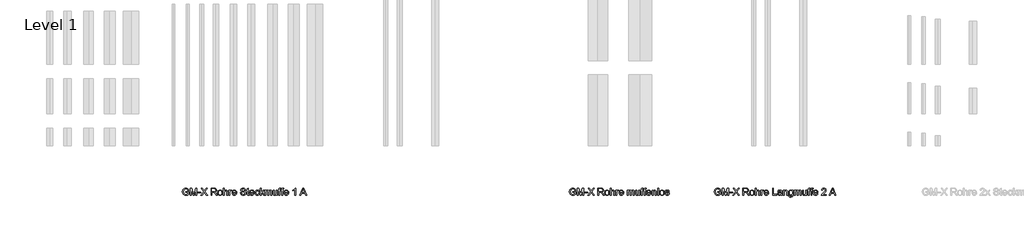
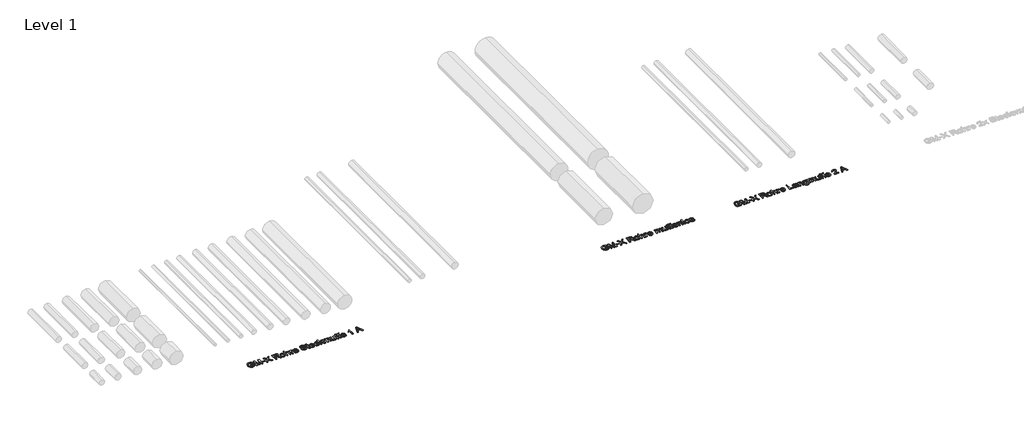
# One storey, part 6 of 7: 3 proxies.
"""IFC4 building model written with IfcOpenShell, lengths in millimetres."""

from ifc_helpers import new_model, si_unit, origin, origin_with_axes, place, context, project, spatial, polyline, outline, extrude, element, save

model = new_model("IFC4")

# Units and contexts
model_context = context("Model", 3, world=origin())
ifc_project = project(units=[si_unit("LENGTHUNIT", "METRE", prefix="MILLI")], contexts=[model_context])

# Site, building, storey
site = spatial("IfcSite", under=ifc_project)
building = spatial("IfcBuilding", under=site)
storey = spatial("IfcBuildingStorey", under=building, Name="Level 1", Elevation=0.0)

# Proxies
placement = place(None, origin())
element("IfcBuildingElementProxy", 1, Name="100mm ACO", ObjectType="100mm ACO", at=placement, inside=storey, context=model_context, shape_type="SweptSolid", body=[
    extrude(outline(polyline([(3317.5925926, -686.6608796), (3298.1843171, -698.0541088), (3277.0543981, -701.8518519), (3256.6731771, -698.3362269), (3240.6684028, -687.7893519), (3230.3059896, -671.412037), (3226.8518519, -650.4050926), (3232.4797454, -623.900463), (3239.4422743, -613.0135995), (3249.0740741, -604.8900463), (3261.2630208, -599.8336227), (3275.8969907, -598.1481481), (3290.7335069, -600.0217014), (3302.3148148, -605.6423611), (3310.6481481, -615.0028935), (3315.7407407, -628.0960648), (3302.7777778, -631.4814815), (3299.0198206, -621.7773437), (3293.1278935, -614.8292824), (3285.1019965, -610.651765), (3274.9421296, -609.2592593), (3259.6824363, -612.0659722), (3248.6834491, -620.4861111), (3242.0319734, -633.4490741), (3239.8148148, -649.8842593), (3244.1984954, -672.4971065), (3257.2048611, -686.1255787), (3275.9548611, -690.7407407), (3290.8203125, -687.9340278), (3304.6296296, -679.5138889), (3304.6296296, -659.2592593), (3275.0, -659.2592593), (3275.0, -648.1481481), (3317.5925926, -648.1481481), (3317.5925926, -686.6608796)])), origin_with_axes(), (0.0, 0.0, 1.0), 10.0),
    extrude(outline(polyline([(3430.5555556, -700.0), (3417.5925926, -700.0), (3417.5925926, -616.2037037), (3392.0717593, -700.0), (3378.2986111, -700.0), (3351.3020833, -614.84375), (3350.9259259, -700.0), (3337.962963, -700.0), (3337.962963, -600.0), (3357.6678241, -600.0), (3380.4976852, -670.8622685), (3384.9247685, -685.6770833), (3389.9305556, -669.6469907), (3411.2847222, -600.0), (3430.5555556, -600.0), (3430.5555556, -700.0)])), origin_with_axes(), (0.0, 0.0, 1.0), 10.0),
    extrude(outline(polyline([(3484.2592593, -666.6666667), (3445.3703704, -666.6666667), (3445.3703704, -657.4074074), (3484.2592593, -657.4074074), (3484.2592593, -666.6666667)])), origin_with_axes(), (0.0, 0.0, 1.0), 10.0),
    extrude(outline(polyline([(3580.5555556, -700.0), (3564.9305556, -700.0), (3544.0104167, -671.4699074), (3534.9537037, -658.7384259), (3503.7615741, -700.0), (3487.962963, -700.0), (3526.9097222, -648.0902778), (3491.6666667, -600.0), (3507.2916667, -600.0), (3529.5717593, -630.4108796), (3534.7800926, -637.5578704), (3562.9340278, -600.0), (3578.7037037, -600.0), (3542.5925926, -648.1770833), (3580.5555556, -700.0)])), origin_with_axes(), (0.0, 0.0, 1.0), 10.0),
    extrude(outline(polyline([(3718.0555556, -700.0), (3703.0671296, -700.0), (3684.302662, -670.1388889), (3676.5335648, -661.009838), (3668.8078704, -656.4959491), (3659.2303241, -655.5555556), (3643.5185185, -655.5555556), (3643.5185185, -700.0), (3630.5555556, -700.0), (3630.5555556, -600.0), (3674.681713, -600.0), (3689.8582176, -601.1429398), (3700.5931713, -605.9461806), (3707.6967593, -615.1765046), (3710.1851852, -626.9097222), (3708.3695023, -636.9610822), (3702.9224537, -644.8350694), (3694.0538194, -650.3797743), (3681.9733796, -653.443287), (3691.6304977, -660.9302662), (3700.6944444, -672.5983796), (3718.0555556, -700.0)]), holes=[polyline([(3643.5185185, -644.4444444), (3672.2800926, -644.4444444), (3686.0677083, -642.96875), (3694.1840278, -637.2251157), (3697.2222222, -627.6331019), (3692.1730324, -615.9288194), (3685.4853877, -612.3155382), (3675.5208333, -611.1111111), (3643.5185185, -611.1111111), (3643.5185185, -644.4444444)])]), origin_with_axes(), (0.0, 0.0, 1.0), 10.0),
    extrude(outline(polyline([(3758.3043981, -625.9259259), (3771.4807581, -628.3203125), (3782.1903935, -635.5034722), (3789.2975984, -647.0992477), (3791.6666667, -662.7314815), (3789.1022859, -681.0040509), (3781.4091435, -692.9976852), (3770.5041956, -699.6383102), (3758.3043981, -701.8518519), (3745.7139757, -699.5768229), (3734.9103009, -692.7517361), (3727.4775752, -680.9859664), (3725.0, -663.8888889), (3727.3943866, -647.1715856), (3734.5775463, -635.3298611), (3745.2980324, -628.2769097), (3758.3043981, -625.9259259)]), holes=[polyline([(3758.3043981, -692.5925926), (3767.1115451, -690.5852141), (3773.509838, -684.5630787), (3778.7037037, -663.4259259), (3777.2352431, -651.1429398), (3772.8298611, -642.3032407), (3766.2615741, -636.9646991), (3758.3043981, -635.1851852), (3750.1916956, -636.9900174), (3743.677662, -642.4045139), (3739.3916377, -651.3925058), (3737.962963, -663.9178241), (3739.416956, -676.3997396), (3743.7789352, -685.3732639), (3750.318287, -690.7877604), (3758.3043981, -692.5925926)])]), origin_with_axes(), (0.0, 0.0, 1.0), 10.0),
    extrude(outline(polyline([(3865.7407407, -700.0), (3852.7777778, -700.0), (3852.7777778, -653.2986111), (3849.0885417, -639.7135417), (3838.0787037, -635.1851852), (3825.1446759, -640.5237269), (3820.8695023, -647.9564525), (3819.4444444, -659.5775463), (3819.4444444, -700.0), (3806.4814815, -700.0), (3806.4814815, -600.0), (3819.4444444, -600.0), (3819.4444444, -635.8217593), (3829.1449653, -628.3998843), (3841.0011574, -625.9259259), (3854.2824074, -628.7905093), (3863.1799769, -637.6012731), (3865.7407407, -654.1087963), (3865.7407407, -700.0)])), origin_with_axes(), (0.0, 0.0, 1.0), 10.0),
    extrude(outline(polyline([(3923.1481481, -628.7615741), (3919.0972222, -637.037037), (3910.5902778, -635.1851852), (3904.7960069, -636.8127894), (3900.6076389, -641.6956019), (3897.2222222, -659.9247685), (3897.2222222, -700.0), (3884.2592593, -700.0), (3884.2592593, -627.7777778), (3895.3703704, -627.7777778), (3895.3703704, -638.4837963), (3902.3003472, -629.0653935), (3910.7349537, -625.9259259), (3923.1481481, -628.7615741)])), origin_with_axes(), (0.0, 0.0, 1.0), 10.0),
    extrude(outline(polyline([(3993.5185185, -666.6666667), (3939.8148148, -666.6666667), (3941.8872975, -677.7922454), (3946.6001157, -685.9375), (3953.3817998, -690.9288194), (3961.6608796, -692.5925926), (3973.3362269, -688.9033565), (3980.5555556, -677.7777778), (3993.5185185, -679.2824074), (3989.1420718, -688.9033565), (3982.2048611, -696.0069444), (3972.9600694, -700.390625), (3961.6608796, -701.8518519), (3947.0739294, -699.3453414), (3936.0677083, -691.8258102), (3929.155816, -679.9660012), (3926.8518519, -664.4386574), (3929.0726273, -648.900463), (3935.7349537, -636.6030093), (3946.4337384, -628.5951968), (3960.7638889, -625.9259259), (3975.9837963, -629.3836806), (3988.4114583, -641.1603009), (3992.2417535, -651.6963252), (3993.5185185, -666.6666667)]), holes=[polyline([(3980.5555556, -657.4074074), (3978.4722222, -647.2511574), (3973.7268519, -640.3935185), (3960.4456019, -635.1851852), (3952.5896991, -636.7332176), (3946.2673611, -641.3773148), (3939.8148148, -657.4074074), (3980.5555556, -657.4074074)])]), origin_with_axes(), (0.0, 0.0, 1.0), 10.0),
    extrude(outline(polyline([(4106.4814815, -629.6296296), (4104.4704861, -620.7356771), (4100.0, -614.3663194), (4083.6805556, -609.2592593), (4068.0555556, -613.2378472), (4063.5416667, -618.1242766), (4062.037037, -624.8263889), (4066.5075231, -634.8813657), (4084.693287, -641.1747685), (4104.5283565, -646.6579861), (4117.6793981, -655.5844907), (4121.7809606, -662.6663773), (4123.1481481, -671.8171296), (4120.6416377, -683.6552373), (4113.1221065, -693.3015046), (4101.5733507, -699.714265), (4086.9791667, -701.8518519), (4068.9959491, -699.4791667), (4056.1921296, -692.3611111), (4048.3796296, -681.4670139), (4045.3703704, -667.7662037), (4058.3333333, -666.6666667), (4060.9628183, -677.5426794), (4067.1730324, -684.9971065), (4076.0091146, -689.3048322), (4086.5162037, -690.7407407), (4103.6458333, -686.009838), (4108.5503472, -680.4361979), (4110.1851852, -673.1770833), (4108.4960938, -665.8492477), (4103.4288194, -660.8217593), (4080.150463, -653.3709491), (4065.9396701, -649.0306713), (4056.3512731, -643.1568287), (4050.8933738, -635.5287905), (4049.0740741, -625.9259259), (4051.3563368, -614.9305556), (4058.203125, -606.0185185), (4068.9850984, -600.1157407), (4083.0729167, -598.1481481), (4097.6345486, -600.1302083), (4109.0277778, -606.0763889), (4116.5364583, -615.6684028), (4119.4444444, -628.587963), (4106.4814815, -629.6296296)])), origin_with_axes(), (0.0, 0.0, 1.0), 10.0),
    extrude(outline(polyline([(4167.5925926, -701.0127315), (4158.5069444, -701.8518519), (4146.9184028, -698.9728009), (4142.4768519, -691.6666667), (4141.6666667, -679.3402778), (4141.6666667, -637.037037), (4132.4074074, -637.037037), (4132.4074074, -627.7777778), (4141.6666667, -627.7777778), (4141.6666667, -609.4328704), (4154.6296296, -601.8518519), (4154.6296296, -627.7777778), (4165.7407407, -627.7777778), (4165.7407407, -637.037037), (4154.6296296, -637.037037), (4154.6296296, -681.9444444), (4155.6712963, -690.162037), (4160.9664352, -692.5925926), (4166.0011574, -692.5925926), (4167.5925926, -701.0127315)])), origin_with_axes(), (0.0, 0.0, 1.0), 10.0),
    extrude(outline(polyline([(4241.6666667, -666.6666667), (4187.962963, -666.6666667), (4190.0354456, -677.7922454), (4194.7482639, -685.9375), (4201.5299479, -690.9288194), (4209.8090278, -692.5925926), (4221.484375, -688.9033565), (4228.7037037, -677.7777778), (4241.6666667, -679.2824074), (4237.2902199, -688.9033565), (4230.3530093, -696.0069444), (4221.1082176, -700.390625), (4209.8090278, -701.8518519), (4195.2220775, -699.3453414), (4184.2158565, -691.8258102), (4177.3039641, -679.9660012), (4175.0, -664.4386574), (4177.2207755, -648.900463), (4183.8831019, -636.6030093), (4194.5818866, -628.5951968), (4208.912037, -625.9259259), (4224.1319444, -629.3836806), (4236.5596065, -641.1603009), (4240.3899016, -651.6963252), (4241.6666667, -666.6666667)]), holes=[polyline([(4228.7037037, -657.4074074), (4226.6203704, -647.2511574), (4221.875, -640.3935185), (4208.59375, -635.1851852), (4200.7378472, -636.7332176), (4194.4155093, -641.3773148), (4187.962963, -657.4074074), (4228.7037037, -657.4074074)])]), origin_with_axes(), (0.0, 0.0, 1.0), 10.0),
    extrude(outline(polyline([(4317.5925926, -675.5497685), (4313.5633681, -687.3553241), (4306.3946759, -695.5150463), (4297.0703125, -700.2676505), (4286.5740741, -701.8518519), (4272.2583912, -699.2621528), (4261.6030093, -691.4930556), (4254.9840856, -679.4487847), (4252.7777778, -664.0335648), (4257.8125, -641.3483796), (4270.4137731, -629.3836806), (4286.3136574, -625.9259259), (4305.7725694, -631.5827546), (4312.3083044, -638.566985), (4315.7407407, -648.2060185), (4302.7777778, -650.0), (4296.875, -638.9033565), (4286.4583333, -635.1851852), (4277.5028935, -637.0695891), (4271.0069444, -642.7228009), (4267.0572917, -651.7541956), (4265.7407407, -663.7731481), (4267.0609086, -676.0018808), (4271.021412, -685.083912), (4277.4703414, -690.7154225), (4286.255787, -692.5925926), (4298.8570602, -687.962963), (4304.6296296, -674.0740741), (4317.5925926, -675.5497685)])), origin_with_axes(), (0.0, 0.0, 1.0), 10.0),
    extrude(outline(polyline([(4386.1111111, -700.0), (4373.2349537, -700.0), (4347.1354167, -662.037037), (4337.962963, -670.3703704), (4337.962963, -700.0), (4325.0, -700.0), (4325.0, -600.0), (4337.962963, -600.0), (4337.962963, -655.9895833), (4368.9525463, -627.7777778), (4384.7222222, -627.7777778), (4355.0347222, -654.8032407), (4386.1111111, -700.0)])), origin_with_axes(), (0.0, 0.0, 1.0), 10.0),
    extrude(outline(polyline([(4489.8148148, -700.0), (4476.8518519, -700.0), (4476.8518519, -653.2986111), (4476.2008102, -644.4878472), (4472.8153935, -638.0063657), (4464.2939815, -635.1851852), (4452.2858796, -640.3356481), (4448.4881366, -647.0920139), (4447.2222222, -657.0601852), (4447.2222222, -700.0), (4434.2592593, -700.0), (4434.2592593, -651.9097222), (4431.0763889, -638.744213), (4422.0486111, -635.1851852), (4409.5196759, -640.7552083), (4405.8521412, -648.7521701), (4404.6296296, -661.6030093), (4404.6296296, -700.0), (4391.6666667, -700.0), (4391.6666667, -627.7777778), (4402.7777778, -627.7777778), (4402.7777778, -637.6736111), (4412.1600116, -628.8628472), (4424.7106481, -625.9259259), (4437.890625, -629.0943287), (4445.3703704, -638.6284722), (4454.8900463, -629.1015625), (4467.4768519, -625.9259259), (4477.2497106, -627.4450231), (4484.2303241, -632.0023148), (4488.4186921, -639.5978009), (4489.8148148, -650.2314815), (4489.8148148, -700.0)])), origin_with_axes(), (0.0, 0.0, 1.0), 10.0),
    extrude(outline(polyline([(4567.5925926, -700.0), (4556.4814815, -700.0), (4556.4814815, -689.4965278), (4546.2384259, -698.7630208), (4533.275463, -701.8518519), (4519.1550926, -698.3362269), (4510.5034722, -688.6574074), (4508.3333333, -672.65625), (4508.3333333, -627.7777778), (4521.2962963, -627.7777778), (4521.2962963, -668.75), (4522.193287, -682.8414352), (4526.880787, -689.84375), (4535.9085648, -692.5925926), (4548.6545139, -687.6736111), (4553.1358507, -680.1215278), (4554.6296296, -667.3032407), (4554.6296296, -627.7777778), (4567.5925926, -627.7777778), (4567.5925926, -700.0)])), origin_with_axes(), (0.0, 0.0, 1.0), 10.0),
    extrude(outline(polyline([(4619.4444444, -599.1030093), (4617.8530093, -607.4074074), (4611.5451389, -607.4074074), (4605.2372685, -609.5341435), (4602.7777778, -620.0520833), (4602.7777778, -627.7777778), (4613.8888889, -627.7777778), (4613.8888889, -637.037037), (4602.7777778, -637.037037), (4602.7777778, -700.0), (4589.8148148, -700.0), (4589.8148148, -637.037037), (4578.7037037, -637.037037), (4578.7037037, -627.7777778), (4589.8148148, -627.7777778), (4589.8148148, -619.849537), (4590.7841435, -609.8668981), (4595.8912037, -601.7650463), (4608.6516204, -598.1481481), (4619.4444444, -599.1030093)])), origin_with_axes(), (0.0, 0.0, 1.0), 10.0),
    extrude(outline(polyline([(4658.3333333, -599.1030093), (4656.7418981, -607.4074074), (4650.4340278, -607.4074074), (4644.1261574, -609.5341435), (4641.6666667, -620.0520833), (4641.6666667, -627.7777778), (4652.7777778, -627.7777778), (4652.7777778, -637.037037), (4641.6666667, -637.037037), (4641.6666667, -700.0), (4628.7037037, -700.0), (4628.7037037, -637.037037), (4617.5925926, -637.037037), (4617.5925926, -627.7777778), (4628.7037037, -627.7777778), (4628.7037037, -619.849537), (4629.6730324, -609.8668981), (4634.7800926, -601.7650463), (4647.5405093, -598.1481481), (4658.3333333, -599.1030093)])), origin_with_axes(), (0.0, 0.0, 1.0), 10.0),
    extrude(outline(polyline([(4726.8518519, -666.6666667), (4673.1481481, -666.6666667), (4675.2206308, -677.7922454), (4679.9334491, -685.9375), (4686.7151331, -690.9288194), (4694.994213, -692.5925926), (4706.6695602, -688.9033565), (4713.8888889, -677.7777778), (4726.8518519, -679.2824074), (4722.4754051, -688.9033565), (4715.5381944, -696.0069444), (4706.2934028, -700.390625), (4694.994213, -701.8518519), (4680.4072627, -699.3453414), (4669.4010417, -691.8258102), (4662.4891493, -679.9660012), (4660.1851852, -664.4386574), (4662.4059606, -648.900463), (4669.068287, -636.6030093), (4679.7670718, -628.5951968), (4694.0972222, -625.9259259), (4709.3171296, -629.3836806), (4721.7447917, -641.1603009), (4725.5750868, -651.6963252), (4726.8518519, -666.6666667)]), holes=[polyline([(4713.8888889, -657.4074074), (4711.8055556, -647.2511574), (4707.0601852, -640.3935185), (4693.7789352, -635.1851852), (4685.9230324, -636.7332176), (4679.6006944, -641.3773148), (4673.1481481, -657.4074074), (4713.8888889, -657.4074074)])]), origin_with_axes(), (0.0, 0.0, 1.0), 10.0),
    extrude(outline(polyline([(4825.0, -700.0), (4812.037037, -700.0), (4812.037037, -622.2222222), (4787.962963, -637.037037), (4787.962963, -627.7777778), (4806.2355324, -616.0590278), (4817.5925926, -601.8518519), (4825.0, -601.8518519), (4825.0, -700.0)])), origin_with_axes(), (0.0, 0.0, 1.0), 10.0),
    extrude(outline(polyline([(4981.0185185, -700.0), (4967.2164352, -700.0), (4955.2372685, -670.3703704), (4912.7893519, -670.3703704), (4901.2731481, -700.0), (4887.5, -700.0), (4926.3599537, -600.0), (4940.5381944, -600.0), (4981.0185185, -700.0)]), holes=[polyline([(4950.7233796, -659.2592593), (4936.2991898, -622.5983796), (4933.3333333, -610.9375), (4928.6747685, -629.5138889), (4917.1296296, -659.2592593), (4950.7233796, -659.2592593)])]), origin_with_axes(), (0.0, 0.0, 1.0), 10.0),
])
element("IfcBuildingElementProxy", 2, Name="100mm ACO", ObjectType="100mm ACO", at=placement, inside=storey, context=model_context, shape_type="SweptSolid", body=[
    extrude(outline(polyline([(8787.037037, -686.6608796), (8767.6287616, -698.0541088), (8746.4988426, -701.8518519), (8726.1176215, -698.3362269), (8710.1128472, -687.7893519), (8699.750434, -671.412037), (8696.2962963, -650.4050926), (8701.9241898, -623.900463), (8708.8867188, -613.0135995), (8718.5185185, -604.8900463), (8730.7074653, -599.8336227), (8745.3414352, -598.1481481), (8760.1779514, -600.0217014), (8771.7592593, -605.6423611), (8780.0925926, -615.0028935), (8785.1851852, -628.0960648), (8772.2222222, -631.4814815), (8768.464265, -621.7773438), (8762.572338, -614.8292824), (8754.546441, -610.651765), (8744.3865741, -609.2592593), (8729.1268808, -612.0659722), (8718.1278935, -620.4861111), (8711.4764178, -633.4490741), (8709.2592593, -649.8842593), (8713.6429398, -672.4971065), (8726.6493056, -686.1255787), (8745.3993056, -690.7407407), (8760.2647569, -687.9340278), (8774.0740741, -679.5138889), (8774.0740741, -659.2592593), (8744.4444444, -659.2592593), (8744.4444444, -648.1481481), (8787.037037, -648.1481481), (8787.037037, -686.6608796)])), origin_with_axes(), (0.0, 0.0, 1.0), 10.0),
    extrude(outline(polyline([(8900.0, -700.0), (8887.037037, -700.0), (8887.037037, -616.2037037), (8861.5162037, -700.0), (8847.7430556, -700.0), (8820.7465278, -614.84375), (8820.3703704, -700.0), (8807.4074074, -700.0), (8807.4074074, -600.0), (8827.1122685, -600.0), (8849.9421296, -670.8622685), (8854.369213, -685.6770833), (8859.375, -669.6469907), (8880.7291667, -600.0), (8900.0, -600.0), (8900.0, -700.0)])), origin_with_axes(), (0.0, 0.0, 1.0), 10.0),
    extrude(outline(polyline([(8953.7037037, -666.6666667), (8914.8148148, -666.6666667), (8914.8148148, -657.4074074), (8953.7037037, -657.4074074), (8953.7037037, -666.6666667)])), origin_with_axes(), (0.0, 0.0, 1.0), 10.0),
    extrude(outline(polyline([(9050.0, -700.0), (9034.375, -700.0), (9013.4548611, -671.4699074), (9004.3981481, -658.7384259), (8973.2060185, -700.0), (8957.4074074, -700.0), (8996.3541667, -648.0902778), (8961.1111111, -600.0), (8976.7361111, -600.0), (8999.0162037, -630.4108796), (9004.224537, -637.5578704), (9032.3784722, -600.0), (9048.1481481, -600.0), (9012.037037, -648.1770833), (9050.0, -700.0)])), origin_with_axes(), (0.0, 0.0, 1.0), 10.0),
    extrude(outline(polyline([(9187.5, -700.0), (9172.5115741, -700.0), (9153.7471065, -670.1388889), (9145.9780093, -661.009838), (9138.2523148, -656.4959491), (9128.6747685, -655.5555556), (9112.962963, -655.5555556), (9112.962963, -700.0), (9100.0, -700.0), (9100.0, -600.0), (9144.1261574, -600.0), (9159.302662, -601.1429398), (9170.0376157, -605.9461806), (9177.1412037, -615.1765046), (9179.6296296, -626.9097222), (9177.8139468, -636.9610822), (9172.3668981, -644.8350694), (9163.4982639, -650.3797743), (9151.4178241, -653.443287), (9161.0749421, -660.9302662), (9170.1388889, -672.5983796), (9187.5, -700.0)]), holes=[polyline([(9112.962963, -644.4444444), (9141.724537, -644.4444444), (9155.5121528, -642.96875), (9163.6284722, -637.2251157), (9166.6666667, -627.6331019), (9161.6174769, -615.9288194), (9154.9298322, -612.3155382), (9144.9652778, -611.1111111), (9112.962963, -611.1111111), (9112.962963, -644.4444444)])]), origin_with_axes(), (0.0, 0.0, 1.0), 10.0),
    extrude(outline(polyline([(9227.7488426, -625.9259259), (9240.9252025, -628.3203125), (9251.634838, -635.5034722), (9258.7420428, -647.0992477), (9261.1111111, -662.7314815), (9258.5467303, -681.0040509), (9250.853588, -692.9976852), (9239.94864, -699.6383102), (9227.7488426, -701.8518519), (9215.1584201, -699.5768229), (9204.3547454, -692.7517361), (9196.9220197, -680.9859664), (9194.4444444, -663.8888889), (9196.838831, -647.1715856), (9204.0219907, -635.3298611), (9214.7424769, -628.2769097), (9227.7488426, -625.9259259)]), holes=[polyline([(9227.7488426, -692.5925926), (9236.5559896, -690.5852141), (9242.9542824, -684.5630787), (9248.1481481, -663.4259259), (9246.6796875, -651.1429398), (9242.2743056, -642.3032407), (9235.7060185, -636.9646991), (9227.7488426, -635.1851852), (9219.63614, -636.9900174), (9213.1221065, -642.4045139), (9208.8360822, -651.3925058), (9207.4074074, -663.9178241), (9208.8614005, -676.3997396), (9213.2233796, -685.3732639), (9219.7627315, -690.7877604), (9227.7488426, -692.5925926)])]), origin_with_axes(), (0.0, 0.0, 1.0), 10.0),
    extrude(outline(polyline([(9335.1851852, -700.0), (9322.2222222, -700.0), (9322.2222222, -653.2986111), (9318.5329861, -639.7135417), (9307.5231481, -635.1851852), (9294.5891204, -640.5237269), (9290.3139468, -647.9564525), (9288.8888889, -659.5775463), (9288.8888889, -700.0), (9275.9259259, -700.0), (9275.9259259, -600.0), (9288.8888889, -600.0), (9288.8888889, -635.8217593), (9298.5894097, -628.3998843), (9310.4456019, -625.9259259), (9323.7268519, -628.7905093), (9332.6244213, -637.6012731), (9335.1851852, -654.1087963), (9335.1851852, -700.0)])), origin_with_axes(), (0.0, 0.0, 1.0), 10.0),
    extrude(outline(polyline([(9392.5925926, -628.7615741), (9388.5416667, -637.037037), (9380.0347222, -635.1851852), (9374.2404514, -636.8127894), (9370.0520833, -641.6956019), (9366.6666667, -659.9247685), (9366.6666667, -700.0), (9353.7037037, -700.0), (9353.7037037, -627.7777778), (9364.8148148, -627.7777778), (9364.8148148, -638.4837963), (9371.7447917, -629.0653935), (9380.1793981, -625.9259259), (9392.5925926, -628.7615741)])), origin_with_axes(), (0.0, 0.0, 1.0), 10.0),
    extrude(outline(polyline([(9462.962963, -666.6666667), (9409.2592593, -666.6666667), (9411.3317419, -677.7922454), (9416.0445602, -685.9375), (9422.8262442, -690.9288194), (9431.1053241, -692.5925926), (9442.7806713, -688.9033565), (9450.0, -677.7777778), (9462.962963, -679.2824074), (9458.5865162, -688.9033565), (9451.6493056, -696.0069444), (9442.4045139, -700.390625), (9431.1053241, -701.8518519), (9416.5183738, -699.3453414), (9405.5121528, -691.8258102), (9398.6002604, -679.9660012), (9396.2962963, -664.4386574), (9398.5170718, -648.900463), (9405.1793981, -636.6030093), (9415.8781829, -628.5951968), (9430.2083333, -625.9259259), (9445.4282407, -629.3836806), (9457.8559028, -641.1603009), (9461.6861979, -651.6963252), (9462.962963, -666.6666667)]), holes=[polyline([(9450.0, -657.4074074), (9447.9166667, -647.2511574), (9443.1712963, -640.3935185), (9429.8900463, -635.1851852), (9422.0341435, -636.7332176), (9415.7118056, -641.3773148), (9409.2592593, -657.4074074), (9450.0, -657.4074074)])]), origin_with_axes(), (0.0, 0.0, 1.0), 10.0),
    extrude(outline(polyline([(9612.962963, -700.0), (9600.0, -700.0), (9600.0, -653.2986111), (9599.3489583, -644.4878472), (9595.9635417, -638.0063657), (9587.4421296, -635.1851852), (9575.4340278, -640.3356481), (9571.6362847, -647.0920139), (9570.3703704, -657.0601852), (9570.3703704, -700.0), (9557.4074074, -700.0), (9557.4074074, -651.9097222), (9554.224537, -638.744213), (9545.1967593, -635.1851852), (9532.6678241, -640.7552083), (9529.0002894, -648.7521701), (9527.7777778, -661.6030093), (9527.7777778, -700.0), (9514.8148148, -700.0), (9514.8148148, -627.7777778), (9525.9259259, -627.7777778), (9525.9259259, -637.6736111), (9535.3081597, -628.8628472), (9547.8587963, -625.9259259), (9561.0387731, -629.0943287), (9568.5185185, -638.6284722), (9578.0381944, -629.1015625), (9590.625, -625.9259259), (9600.3978588, -627.4450231), (9607.3784722, -632.0023148), (9611.5668403, -639.5978009), (9612.962963, -650.2314815), (9612.962963, -700.0)])), origin_with_axes(), (0.0, 0.0, 1.0), 10.0),
    extrude(outline(polyline([(9690.7407407, -700.0), (9679.6296296, -700.0), (9679.6296296, -689.4965278), (9669.3865741, -698.7630208), (9656.4236111, -701.8518519), (9642.3032407, -698.3362269), (9633.6516204, -688.6574074), (9631.4814815, -672.65625), (9631.4814815, -627.7777778), (9644.4444444, -627.7777778), (9644.4444444, -668.75), (9645.3414352, -682.8414352), (9650.0289352, -689.84375), (9659.056713, -692.5925926), (9671.802662, -687.6736111), (9676.2839988, -680.1215278), (9677.7777778, -667.3032407), (9677.7777778, -627.7777778), (9690.7407407, -627.7777778), (9690.7407407, -700.0)])), origin_with_axes(), (0.0, 0.0, 1.0), 10.0),
    extrude(outline(polyline([(9742.5925926, -599.1030093), (9741.0011574, -607.4074074), (9734.693287, -607.4074074), (9728.3854167, -609.5341435), (9725.9259259, -620.0520833), (9725.9259259, -627.7777778), (9737.037037, -627.7777778), (9737.037037, -637.037037), (9725.9259259, -637.037037), (9725.9259259, -700.0), (9712.962963, -700.0), (9712.962963, -637.037037), (9701.8518519, -637.037037), (9701.8518519, -627.7777778), (9712.962963, -627.7777778), (9712.962963, -619.849537), (9713.9322917, -609.8668981), (9719.0393519, -601.7650463), (9731.7997685, -598.1481481), (9742.5925926, -599.1030093)])), origin_with_axes(), (0.0, 0.0, 1.0), 10.0),
    extrude(outline(polyline([(9781.4814815, -599.1030093), (9779.8900463, -607.4074074), (9773.5821759, -607.4074074), (9767.2743056, -609.5341435), (9764.8148148, -620.0520833), (9764.8148148, -627.7777778), (9775.9259259, -627.7777778), (9775.9259259, -637.037037), (9764.8148148, -637.037037), (9764.8148148, -700.0), (9751.8518519, -700.0), (9751.8518519, -637.037037), (9740.7407407, -637.037037), (9740.7407407, -627.7777778), (9751.8518519, -627.7777778), (9751.8518519, -619.849537), (9752.8211806, -609.8668981), (9757.9282407, -601.7650463), (9770.6886574, -598.1481481), (9781.4814815, -599.1030093)])), origin_with_axes(), (0.0, 0.0, 1.0), 10.0),
    extrude(outline(polyline([(9850.0, -666.6666667), (9796.2962963, -666.6666667), (9798.3687789, -677.7922454), (9803.0815972, -685.9375), (9809.8632812, -690.9288194), (9818.1423611, -692.5925926), (9829.8177083, -688.9033565), (9837.037037, -677.7777778), (9850.0, -679.2824074), (9845.6235532, -688.9033565), (9838.6863426, -696.0069444), (9829.4415509, -700.390625), (9818.1423611, -701.8518519), (9803.5554109, -699.3453414), (9792.5491898, -691.8258102), (9785.6372975, -679.9660012), (9783.3333333, -664.4386574), (9785.5541088, -648.900463), (9792.2164352, -636.6030093), (9802.9152199, -628.5951968), (9817.2453704, -625.9259259), (9832.4652778, -629.3836806), (9844.8929398, -641.1603009), (9848.723235, -651.6963252), (9850.0, -666.6666667)]), holes=[polyline([(9837.037037, -657.4074074), (9834.9537037, -647.2511574), (9830.2083333, -640.3935185), (9816.9270833, -635.1851852), (9809.0711806, -636.7332176), (9802.7488426, -641.3773148), (9796.2962963, -657.4074074), (9837.037037, -657.4074074)])]), origin_with_axes(), (0.0, 0.0, 1.0), 10.0),
    extrude(outline(polyline([(9924.0740741, -700.0), (9911.1111111, -700.0), (9911.1111111, -655.0347222), (9907.2482639, -639.4386574), (9896.4988426, -635.1851852), (9886.4728009, -637.9050926), (9879.759838, -645.5729167), (9877.7777778, -659.5775463), (9877.7777778, -700.0), (9864.8148148, -700.0), (9864.8148148, -627.7777778), (9875.9259259, -627.7777778), (9875.9259259, -637.818287), (9885.8217593, -628.8917824), (9899.0740741, -625.9259259), (9910.4456019, -627.9803241), (9919.2418981, -634.1290509), (9923.2494213, -642.8674769), (9924.0740741, -655.4108796), (9924.0740741, -700.0)])), origin_with_axes(), (0.0, 0.0, 1.0), 10.0),
    extrude(outline(polyline([(9955.5555556, -700.0), (9942.5925926, -700.0), (9942.5925926, -600.0), (9955.5555556, -600.0), (9955.5555556, -700.0)])), origin_with_axes(), (0.0, 0.0, 1.0), 10.0),
    extrude(outline(polyline([(10003.6747685, -625.9259259), (10016.8511285, -628.3203125), (10027.5607639, -635.5034722), (10034.6679688, -647.0992477), (10037.037037, -662.7314815), (10034.4726563, -681.0040509), (10026.7795139, -692.9976852), (10015.874566, -699.6383102), (10003.6747685, -701.8518519), (9991.0843461, -699.5768229), (9980.2806713, -692.7517361), (9972.8479456, -680.9859664), (9970.3703704, -663.8888889), (9972.7647569, -647.1715856), (9979.9479167, -635.3298611), (9990.6684028, -628.2769097), (10003.6747685, -625.9259259)]), holes=[polyline([(10003.6747685, -692.5925926), (10012.4819155, -690.5852141), (10018.8802083, -684.5630787), (10024.0740741, -663.4259259), (10022.6056134, -651.1429398), (10018.2002315, -642.3032407), (10011.6319444, -636.9646991), (10003.6747685, -635.1851852), (9995.562066, -636.9900174), (9989.0480324, -642.4045139), (9984.7620081, -651.3925058), (9983.3333333, -663.9178241), (9984.7873264, -676.3997396), (9989.1493056, -685.3732639), (9995.6886574, -690.7877604), (10003.6747685, -692.5925926)])]), origin_with_axes(), (0.0, 0.0, 1.0), 10.0),
    extrude(outline(polyline([(10092.5925926, -648.1481481), (10087.8038194, -638.4259259), (10076.7361111, -635.1851852), (10065.4224537, -637.962963), (10061.1111111, -646.0358796), (10063.9612269, -653.1828704), (10077.4016204, -657.0601852), (10095.1244213, -661.2268519), (10104.1666667, -667.5491898), (10107.4074074, -678.8773148), (10105.396412, -687.8074363), (10099.3634259, -695.2112269), (10089.9667245, -700.1916956), (10077.8645833, -701.8518519), (10065.3899016, -700.4557292), (10055.9751157, -696.2673611), (10049.6129919, -689.2939815), (10046.2962963, -679.5428241), (10059.2592593, -677.7777778), (10064.8582176, -688.9033565), (10077.8645833, -692.5925926), (10090.162037, -688.7586806), (10094.4444444, -679.4270833), (10092.5202546, -673.4519676), (10087.7170139, -670.0810185), (10074.1319444, -667.1875), (10053.197338, -659.375), (10048.1481481, -646.7881944), (10050.0180845, -638.5018808), (10055.6278935, -631.8142361), (10064.3988715, -627.3980035), (10075.7523148, -625.9259259), (10087.6844618, -627.2135417), (10096.6290509, -631.0763889), (10102.5860822, -637.5072338), (10105.5555556, -646.4988426), (10092.5925926, -648.1481481)])), origin_with_axes(), (0.0, 0.0, 1.0), 10.0),
])
element("IfcBuildingElementProxy", 3, Name="100mm ACO", ObjectType="100mm ACO", at=placement, inside=storey, context=model_context, shape_type="SweptSolid", body=[
    extrude(outline(polyline([(10835.1851852, -686.6608796), (10815.7769097, -698.0541088), (10794.6469907, -701.8518519), (10774.2657697, -698.3362269), (10758.2609954, -687.7893519), (10747.8985822, -671.412037), (10744.4444444, -650.4050926), (10750.072338, -623.900463), (10757.0348669, -613.0135995), (10766.6666667, -604.8900463), (10778.8556134, -599.8336227), (10793.4895833, -598.1481481), (10808.3260995, -600.0217014), (10819.9074074, -605.6423611), (10828.2407407, -615.0028935), (10833.3333333, -628.0960648), (10820.3703704, -631.4814815), (10816.6124132, -621.7773438), (10810.7204861, -614.8292824), (10802.6945891, -610.651765), (10792.5347222, -609.2592593), (10777.2750289, -612.0659722), (10766.2760417, -620.4861111), (10759.624566, -633.4490741), (10757.4074074, -649.8842593), (10761.791088, -672.4971065), (10774.7974537, -686.1255787), (10793.5474537, -690.7407407), (10808.4129051, -687.9340278), (10822.2222222, -679.5138889), (10822.2222222, -659.2592593), (10792.5925926, -659.2592593), (10792.5925926, -648.1481481), (10835.1851852, -648.1481481), (10835.1851852, -686.6608796)])), origin_with_axes(), (0.0, 0.0, 1.0), 10.0),
    extrude(outline(polyline([(10948.1481481, -700.0), (10935.1851852, -700.0), (10935.1851852, -616.2037037), (10909.6643519, -700.0), (10895.8912037, -700.0), (10868.8946759, -614.84375), (10868.5185185, -700.0), (10855.5555556, -700.0), (10855.5555556, -600.0), (10875.2604167, -600.0), (10898.0902778, -670.8622685), (10902.5173611, -685.6770833), (10907.5231481, -669.6469907), (10928.8773148, -600.0), (10948.1481481, -600.0), (10948.1481481, -700.0)])), origin_with_axes(), (0.0, 0.0, 1.0), 10.0),
    extrude(outline(polyline([(11001.8518519, -666.6666667), (10962.962963, -666.6666667), (10962.962963, -657.4074074), (11001.8518519, -657.4074074), (11001.8518519, -666.6666667)])), origin_with_axes(), (0.0, 0.0, 1.0), 10.0),
    extrude(outline(polyline([(11098.1481481, -700.0), (11082.5231481, -700.0), (11061.6030093, -671.4699074), (11052.5462963, -658.7384259), (11021.3541667, -700.0), (11005.5555556, -700.0), (11044.5023148, -648.0902778), (11009.2592593, -600.0), (11024.8842593, -600.0), (11047.1643519, -630.4108796), (11052.3726852, -637.5578704), (11080.5266204, -600.0), (11096.2962963, -600.0), (11060.1851852, -648.1770833), (11098.1481481, -700.0)])), origin_with_axes(), (0.0, 0.0, 1.0), 10.0),
    extrude(outline(polyline([(11235.6481481, -700.0), (11220.6597222, -700.0), (11201.8952546, -670.1388889), (11194.1261574, -661.009838), (11186.400463, -656.4959491), (11176.8229167, -655.5555556), (11161.1111111, -655.5555556), (11161.1111111, -700.0), (11148.1481481, -700.0), (11148.1481481, -600.0), (11192.2743056, -600.0), (11207.4508102, -601.1429398), (11218.1857639, -605.9461806), (11225.2893519, -615.1765046), (11227.7777778, -626.9097222), (11225.9620949, -636.9610822), (11220.5150463, -644.8350694), (11211.646412, -650.3797743), (11199.5659722, -653.443287), (11209.2230903, -660.9302662), (11218.287037, -672.5983796), (11235.6481481, -700.0)]), holes=[polyline([(11161.1111111, -644.4444444), (11189.8726852, -644.4444444), (11203.6603009, -642.96875), (11211.7766204, -637.2251157), (11214.8148148, -627.6331019), (11209.765625, -615.9288194), (11203.0779803, -612.3155382), (11193.1134259, -611.1111111), (11161.1111111, -611.1111111), (11161.1111111, -644.4444444)])]), origin_with_axes(), (0.0, 0.0, 1.0), 10.0),
    extrude(outline(polyline([(11275.8969907, -625.9259259), (11289.0733507, -628.3203125), (11299.7829861, -635.5034722), (11306.890191, -647.0992477), (11309.2592593, -662.7314815), (11306.6948785, -681.0040509), (11299.0017361, -692.9976852), (11288.0967882, -699.6383102), (11275.8969907, -701.8518519), (11263.3065683, -699.5768229), (11252.5028935, -692.7517361), (11245.0701678, -680.9859664), (11242.5925926, -663.8888889), (11244.9869792, -647.1715856), (11252.1701389, -635.3298611), (11262.890625, -628.2769097), (11275.8969907, -625.9259259)]), holes=[polyline([(11275.8969907, -692.5925926), (11284.7041377, -690.5852141), (11291.1024306, -684.5630787), (11296.2962963, -663.4259259), (11294.8278356, -651.1429398), (11290.4224537, -642.3032407), (11283.8541667, -636.9646991), (11275.8969907, -635.1851852), (11267.7842882, -636.9900174), (11261.2702546, -642.4045139), (11256.9842303, -651.3925058), (11255.5555556, -663.9178241), (11257.0095486, -676.3997396), (11261.3715278, -685.3732639), (11267.9108796, -690.7877604), (11275.8969907, -692.5925926)])]), origin_with_axes(), (0.0, 0.0, 1.0), 10.0),
    extrude(outline(polyline([(11383.3333333, -700.0), (11370.3703704, -700.0), (11370.3703704, -653.2986111), (11366.6811343, -639.7135417), (11355.6712963, -635.1851852), (11342.7372685, -640.5237269), (11338.4620949, -647.9564525), (11337.037037, -659.5775463), (11337.037037, -700.0), (11324.0740741, -700.0), (11324.0740741, -600.0), (11337.037037, -600.0), (11337.037037, -635.8217593), (11346.7375579, -628.3998843), (11358.59375, -625.9259259), (11371.875, -628.7905093), (11380.7725694, -637.6012731), (11383.3333333, -654.1087963), (11383.3333333, -700.0)])), origin_with_axes(), (0.0, 0.0, 1.0), 10.0),
    extrude(outline(polyline([(11440.7407407, -628.7615741), (11436.6898148, -637.037037), (11428.1828704, -635.1851852), (11422.3885995, -636.8127894), (11418.2002315, -641.6956019), (11414.8148148, -659.9247685), (11414.8148148, -700.0), (11401.8518519, -700.0), (11401.8518519, -627.7777778), (11412.962963, -627.7777778), (11412.962963, -638.4837963), (11419.8929398, -629.0653935), (11428.3275463, -625.9259259), (11440.7407407, -628.7615741)])), origin_with_axes(), (0.0, 0.0, 1.0), 10.0),
    extrude(outline(polyline([(11511.1111111, -666.6666667), (11457.4074074, -666.6666667), (11459.47989, -677.7922454), (11464.1927083, -685.9375), (11470.9743924, -690.9288194), (11479.2534722, -692.5925926), (11490.9288194, -688.9033565), (11498.1481481, -677.7777778), (11511.1111111, -679.2824074), (11506.7346644, -688.9033565), (11499.7974537, -696.0069444), (11490.552662, -700.390625), (11479.2534722, -701.8518519), (11464.666522, -699.3453414), (11453.6603009, -691.8258102), (11446.7484086, -679.9660012), (11444.4444444, -664.4386574), (11446.6652199, -648.900463), (11453.3275463, -636.6030093), (11464.026331, -628.5951968), (11478.3564815, -625.9259259), (11493.5763889, -629.3836806), (11506.0040509, -641.1603009), (11509.8343461, -651.6963252), (11511.1111111, -666.6666667)]), holes=[polyline([(11498.1481481, -657.4074074), (11496.0648148, -647.2511574), (11491.3194444, -640.3935185), (11478.0381944, -635.1851852), (11470.1822917, -636.7332176), (11463.8599537, -641.3773148), (11457.4074074, -657.4074074), (11498.1481481, -657.4074074)])]), origin_with_axes(), (0.0, 0.0, 1.0), 10.0),
    extrude(outline(polyline([(11629.6296296, -700.0), (11566.6666667, -700.0), (11566.6666667, -600.0), (11579.6296296, -600.0), (11579.6296296, -688.8888889), (11629.6296296, -688.8888889), (11629.6296296, -700.0)])), origin_with_axes(), (0.0, 0.0, 1.0), 10.0),
    extrude(outline(polyline([(11705.5555556, -700.0), (11692.5925926, -700.0), (11688.8888889, -691.2615741), (11676.3961227, -699.2042824), (11662.9340278, -701.8518519), (11652.947772, -700.4050926), (11645.3269676, -696.0648148), (11640.4984086, -689.3518519), (11638.8888889, -680.787037), (11640.4658565, -672.479022), (11645.1967593, -665.7841435), (11653.8266782, -660.8904803), (11667.1006944, -657.9861111), (11678.443287, -656.25), (11688.8888889, -653.7037037), (11688.5561343, -645.6741898), (11686.6174769, -640.7986111), (11681.4525463, -636.7332176), (11671.875, -635.1851852), (11659.7945602, -638.3246528), (11653.7037037, -650.0), (11640.7407407, -648.4085648), (11644.2961516, -638.599537), (11650.9693287, -631.568287), (11660.7530382, -627.3365162), (11673.6400463, -625.9259259), (11692.896412, -629.7887731), (11700.4484954, -639.1059028), (11701.8518519, -653.1539352), (11701.8518519, -669.6759259), (11702.4016204, -689.9305556), (11705.5555556, -700.0)]), holes=[polyline([(11688.8888889, -667.5925926), (11688.8888889, -662.962963), (11665.6105324, -668.287037), (11655.291522, -672.3451968), (11651.8518519, -680.5844907), (11655.5555556, -689.2071759), (11666.2326389, -692.5925926), (11682.0457176, -686.9212963), (11687.1780961, -679.2534722), (11688.8888889, -667.5925926)])]), origin_with_axes(), (0.0, 0.0, 1.0), 10.0),
    extrude(outline(polyline([(11779.6296296, -700.0), (11766.6666667, -700.0), (11766.6666667, -655.0347222), (11762.8038194, -639.4386574), (11752.0543981, -635.1851852), (11742.0283565, -637.9050926), (11735.3153935, -645.5729167), (11733.3333333, -659.5775463), (11733.3333333, -700.0), (11720.3703704, -700.0), (11720.3703704, -627.7777778), (11731.4814815, -627.7777778), (11731.4814815, -637.818287), (11741.3773148, -628.8917824), (11754.6296296, -625.9259259), (11766.0011574, -627.9803241), (11774.7974537, -634.1290509), (11778.8049769, -642.8674769), (11779.6296296, -655.4108796), (11779.6296296, -700.0)])), origin_with_axes(), (0.0, 0.0, 1.0), 10.0),
    extrude(outline(polyline([(11857.4074074, -689.3518519), (11854.3547454, -711.9936343), (11843.4895833, -723.6255787), (11824.8263889, -727.7777778), (11813.6103877, -726.3708044), (11804.4415509, -722.1498843), (11798.33261, -714.7243924), (11796.2962963, -703.7037037), (11809.2592593, -705.7581019), (11813.8310185, -715.3211806), (11825.0289352, -718.5185185), (11838.3391204, -714.8292824), (11843.5040509, -705.8449074), (11844.4444444, -691.2326389), (11835.6698495, -697.8081597), (11824.8553241, -700.0), (11812.463831, -697.3885995), (11802.7777778, -689.5543981), (11796.5277778, -677.7416088), (11794.4444444, -663.1944444), (11796.4265046, -648.5532407), (11802.3726852, -636.5740741), (11811.8200231, -628.587963), (11824.3055556, -625.9259259), (11835.3804977, -628.3058449), (11844.1840278, -635.4456019), (11844.4444444, -627.7777778), (11857.4074074, -627.7777778), (11857.4074074, -689.3518519)]), holes=[polyline([(11826.7939815, -690.7407407), (11834.0060764, -689.134838), (11840.3645833, -684.3171296), (11844.8133681, -675.7233796), (11846.2962963, -662.7893519), (11844.8820891, -651.0018808), (11840.6394676, -642.3177083), (11834.3135127, -636.968316), (11826.6493056, -635.1851852), (11818.927228, -637.0117188), (11812.7748843, -642.4913194), (11808.7492766, -651.1465567), (11807.4074074, -662.5), (11808.8143808, -675.2170139), (11813.0353009, -683.9699074), (11819.2889178, -689.0480324), (11826.7939815, -690.7407407)])]), origin_with_axes(), (0.0, 0.0, 1.0), 10.0),
    extrude(outline(polyline([(11972.2222222, -700.0), (11959.2592593, -700.0), (11959.2592593, -653.2986111), (11958.6082176, -644.4878472), (11955.2228009, -638.0063657), (11946.7013889, -635.1851852), (11934.693287, -640.3356481), (11930.895544, -647.0920139), (11929.6296296, -657.0601852), (11929.6296296, -700.0), (11916.6666667, -700.0), (11916.6666667, -651.9097222), (11913.4837963, -638.744213), (11904.4560185, -635.1851852), (11891.9270833, -640.7552083), (11888.2595486, -648.7521701), (11887.037037, -661.6030093), (11887.037037, -700.0), (11874.0740741, -700.0), (11874.0740741, -627.7777778), (11885.1851852, -627.7777778), (11885.1851852, -637.6736111), (11894.567419, -628.8628472), (11907.1180556, -625.9259259), (11920.2980324, -629.0943287), (11927.7777778, -638.6284722), (11937.2974537, -629.1015625), (11949.8842593, -625.9259259), (11959.6571181, -627.4450231), (11966.6377315, -632.0023148), (11970.8260995, -639.5978009), (11972.2222222, -650.2314815), (11972.2222222, -700.0)])), origin_with_axes(), (0.0, 0.0, 1.0), 10.0),
    extrude(outline(polyline([(12050.0, -700.0), (12038.8888889, -700.0), (12038.8888889, -689.4965278), (12028.6458333, -698.7630208), (12015.6828704, -701.8518519), (12001.5625, -698.3362269), (11992.9108796, -688.6574074), (11990.7407407, -672.65625), (11990.7407407, -627.7777778), (12003.7037037, -627.7777778), (12003.7037037, -668.75), (12004.6006944, -682.8414352), (12009.2881944, -689.84375), (12018.3159722, -692.5925926), (12031.0619213, -687.6736111), (12035.5432581, -680.1215278), (12037.037037, -667.3032407), (12037.037037, -627.7777778), (12050.0, -627.7777778), (12050.0, -700.0)])), origin_with_axes(), (0.0, 0.0, 1.0), 10.0),
    extrude(outline(polyline([(12101.8518519, -599.1030093), (12100.2604167, -607.4074074), (12093.9525463, -607.4074074), (12087.6446759, -609.5341435), (12085.1851852, -620.0520833), (12085.1851852, -627.7777778), (12096.2962963, -627.7777778), (12096.2962963, -637.037037), (12085.1851852, -637.037037), (12085.1851852, -700.0), (12072.2222222, -700.0), (12072.2222222, -637.037037), (12061.1111111, -637.037037), (12061.1111111, -627.7777778), (12072.2222222, -627.7777778), (12072.2222222, -619.849537), (12073.1915509, -609.8668981), (12078.2986111, -601.7650463), (12091.0590278, -598.1481481), (12101.8518519, -599.1030093)])), origin_with_axes(), (0.0, 0.0, 1.0), 10.0),
    extrude(outline(polyline([(12140.7407407, -599.1030093), (12139.1493056, -607.4074074), (12132.8414352, -607.4074074), (12126.5335648, -609.5341435), (12124.0740741, -620.0520833), (12124.0740741, -627.7777778), (12135.1851852, -627.7777778), (12135.1851852, -637.037037), (12124.0740741, -637.037037), (12124.0740741, -700.0), (12111.1111111, -700.0), (12111.1111111, -637.037037), (12100.0, -637.037037), (12100.0, -627.7777778), (12111.1111111, -627.7777778), (12111.1111111, -619.849537), (12112.0804398, -609.8668981), (12117.1875, -601.7650463), (12129.9479167, -598.1481481), (12140.7407407, -599.1030093)])), origin_with_axes(), (0.0, 0.0, 1.0), 10.0),
    extrude(outline(polyline([(12209.2592593, -666.6666667), (12155.5555556, -666.6666667), (12157.6280382, -677.7922454), (12162.3408565, -685.9375), (12169.1225405, -690.9288194), (12177.4016204, -692.5925926), (12189.0769676, -688.9033565), (12196.2962963, -677.7777778), (12209.2592593, -679.2824074), (12204.8828125, -688.9033565), (12197.9456019, -696.0069444), (12188.7008102, -700.390625), (12177.4016204, -701.8518519), (12162.8146701, -699.3453414), (12151.8084491, -691.8258102), (12144.8965567, -679.9660012), (12142.5925926, -664.4386574), (12144.8133681, -648.900463), (12151.4756944, -636.6030093), (12162.1744792, -628.5951968), (12176.5046296, -625.9259259), (12191.724537, -629.3836806), (12204.1521991, -641.1603009), (12207.9824942, -651.6963252), (12209.2592593, -666.6666667)]), holes=[polyline([(12196.2962963, -657.4074074), (12194.212963, -647.2511574), (12189.4675926, -640.3935185), (12176.1863426, -635.1851852), (12168.3304398, -636.7332176), (12162.0081019, -641.3773148), (12155.5555556, -657.4074074), (12196.2962963, -657.4074074)])]), origin_with_axes(), (0.0, 0.0, 1.0), 10.0),
    extrude(outline(polyline([(12324.0740741, -700.0), (12257.4074074, -700.0), (12263.3680556, -684.4039352), (12285.3877315, -662.7893519), (12303.1539352, -645.4571759), (12309.1218171, -636.4293981), (12311.1111111, -627.34375), (12305.6857639, -614.380787), (12291.9849537, -609.2592593), (12277.9513889, -614.3663194), (12273.6834491, -620.7356771), (12272.2222222, -629.6296296), (12259.2592593, -628.2407407), (12262.3987269, -616.1385995), (12269.4444444, -607.2627315), (12279.6585648, -601.8156829), (12292.3032407, -600.0), (12305.6604456, -602.0869502), (12315.697338, -608.3478009), (12321.97989, -617.5600405), (12324.0740741, -628.5011574), (12322.3234954, -638.4042245), (12317.0717593, -648.4375), (12289.6412037, -675.9548611), (12274.0740741, -690.7407407), (12324.0740741, -690.7407407), (12324.0740741, -700.0)])), origin_with_axes(), (0.0, 0.0, 1.0), 10.0),
    extrude(outline(polyline([(12463.4259259, -700.0), (12449.6238426, -700.0), (12437.6446759, -670.3703704), (12395.1967593, -670.3703704), (12383.6805556, -700.0), (12369.9074074, -700.0), (12408.7673611, -600.0), (12422.9456019, -600.0), (12463.4259259, -700.0)]), holes=[polyline([(12433.130787, -659.2592593), (12418.7065972, -622.5983796), (12415.7407407, -610.9375), (12411.0821759, -629.5138889), (12399.537037, -659.2592593), (12433.130787, -659.2592593)])]), origin_with_axes(), (0.0, 0.0, 1.0), 10.0),
])

save(model, "model.ifc")
